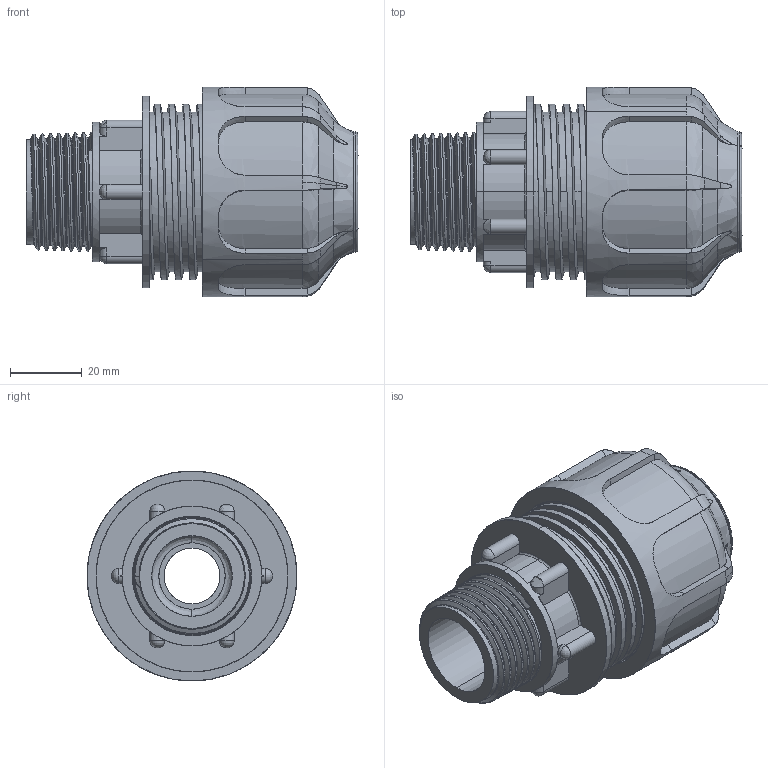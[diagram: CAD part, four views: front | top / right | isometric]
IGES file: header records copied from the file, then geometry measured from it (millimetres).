
Start section: SolidWorks IGES file using analytic representation for surfaces
Global section: file name: P:\DisegniUfficioTecnico\Articoli\ARTICOLI_3D\DISEGNI_STEP_IGS_SITO\02004\02004_IGS\02004.0720.IGS; native system: SolidWorks 2011; preprocessor: SolidWorks 2011; author: giacomo; date: 170522.155823; units: millimetre
Bounding box: 92.69 x 58.6 x 58.6 mm (x, y, z)
Surface area: 52958.4 mm2 (no closed solid volume)
Topology: 0 solids, 0 shells, 430 faces, 9425 edges, 9418 vertices
Faces by surface type: bspline 243, revolution 187
